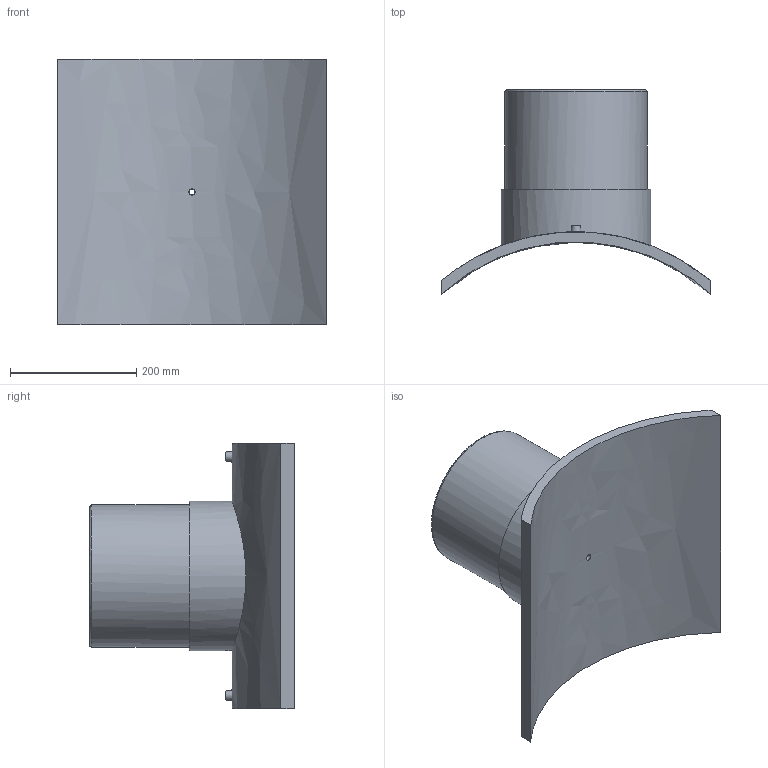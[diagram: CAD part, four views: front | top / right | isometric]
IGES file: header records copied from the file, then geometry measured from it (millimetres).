
Global section: file name: 495803630225TN; native system: Autodesk Inventor 2019; preprocessor: unknown; author: KIM; date: 20240404.115405; units: millimetre
Bounding box: 425 x 323.47 x 420 mm (x, y, z)
Volume: 6781281 mm3; surface area: 731753.2 mm2
Topology: 1 solids, 1 shells, 29 faces, 60 edges, 43 vertices
Faces by surface type: bspline 29
